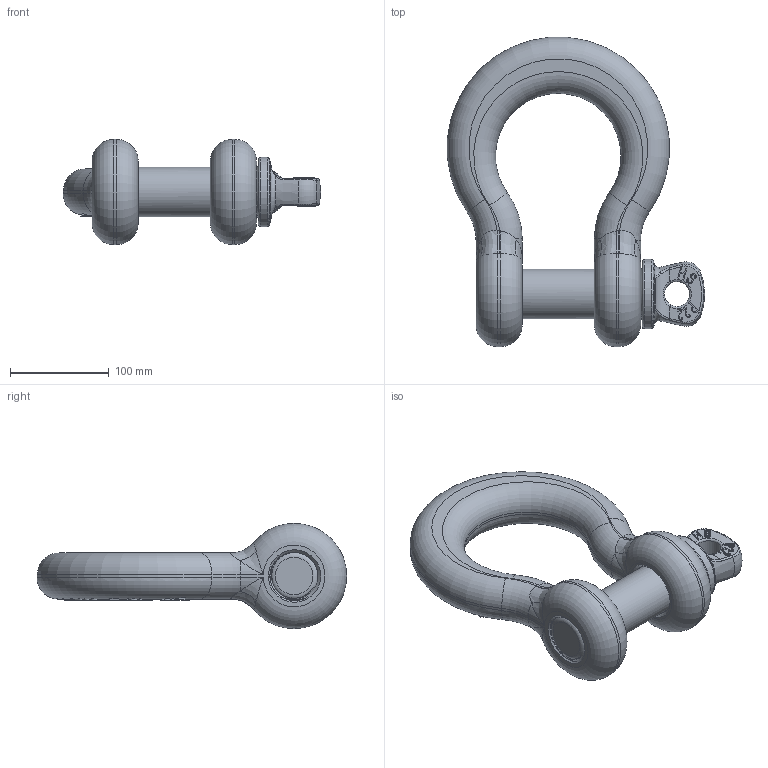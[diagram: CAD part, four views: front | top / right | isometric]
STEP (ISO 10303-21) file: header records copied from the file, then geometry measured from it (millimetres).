
FILE_DESCRIPTION(/* description */ (''),/* implementation_level */ '2;1');
FILE_NAME(/* name */ 'G-209-1 3-4.stp',/* time_stamp */ '2025-04-08T08:18:58+08:00',/* author */ (''),/* organization */ (''),/* preprocessor_version */ 'ST-DEVELOPER v16',/* originating_system */ 'SIEMENS PLM Software NX 10.0',/* authorisation */ '');
FILE_SCHEMA (('AP203_CONFIGURATION_CONTROLLED_3D_DESIGN_OF_MECHANICAL_PARTS_AND_ASSEMBLIES_MIM_LF { 1 0 10303 403 2 1 2}'));
Length unit declared in the file: millimetre
Products named in the file (1): Admi20FC52B4dhow
Bounding box: 260.16 x 312.84 x 106.4 mm (x, y, z)
Volume: 1892694.6 mm3; surface area: 183508.9 mm2
Topology: 2 solids, 2 shells, 557 faces, 1538 edges, 993 vertices
Faces by surface type: plane 242, extrusion 146, cylinder 70, bspline 52, torus 39, cone 7, sphere 1
Full cylindrical faces by diameter (mm): 25.4 x1, 50 x8, 52 x1, 70 x1
Entity records: 25039 total; most frequent: CARTESIAN_POINT 12555, ORIENTED_EDGE 2970, DIRECTION 1849, EDGE_CURVE 1485, VERTEX_POINT 969, B_SPLINE_CURVE_WITH_KNOTS 872, VECTOR 667, AXIS2_PLACEMENT_3D 591
